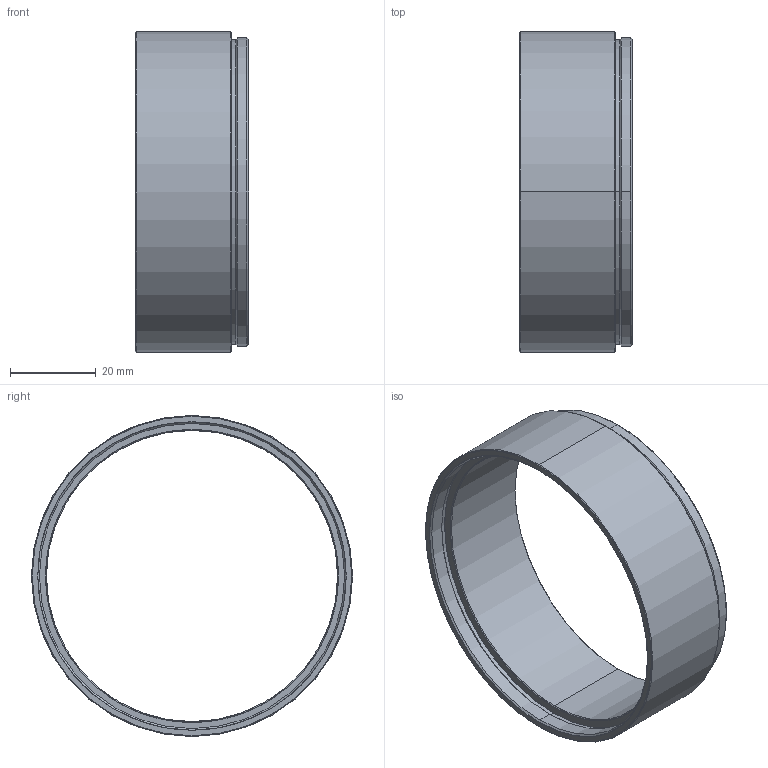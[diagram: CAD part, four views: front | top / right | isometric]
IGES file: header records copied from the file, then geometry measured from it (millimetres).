
Start section: SolidWorks IGES file using analytic representation for surfaces
Bounding box: 26.4 x 75 x 75 mm (x, y, z)
Surface area: 13480.4 mm2 (no closed solid volume)
Topology: 0 solids, 0 shells, 32 faces, 624 edges, 624 vertices
Faces by surface type: revolution 28, bspline 4
